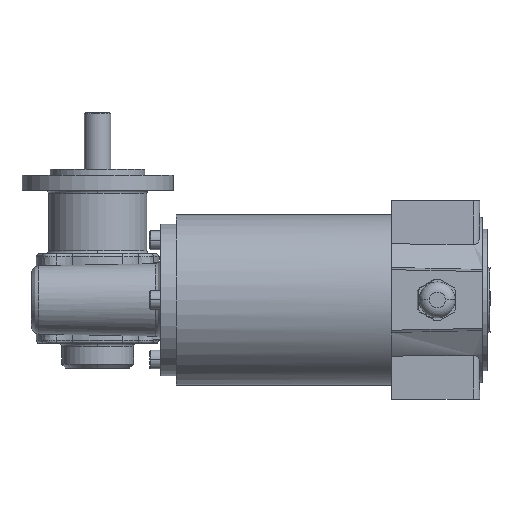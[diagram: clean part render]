
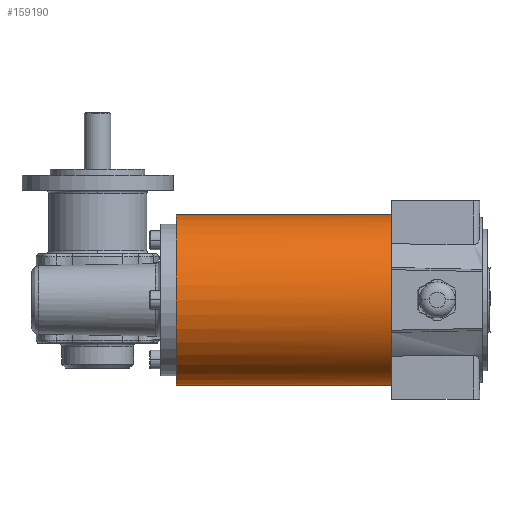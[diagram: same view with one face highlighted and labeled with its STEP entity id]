
A CAD part, front view. The second image highlights one B-rep face of the part: STEP entity #159190.
In plain terms, the highlighted cylindrical face has radius 45 mm (diameter 90 mm), a partial arc.
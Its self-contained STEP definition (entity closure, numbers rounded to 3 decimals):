
#21200=CARTESIAN_POINT('',(-64.,458.874,
-134.584));
#21210=DIRECTION('',(0.,1.,
-0.026));
#21220=DIRECTION('',(1.,0.,0.));
#21230=AXIS2_PLACEMENT_3D('',#21200,#21210,#21220);
#21240=CIRCLE('',#21230,45.);
#21250=CARTESIAN_POINT('',(-19.,458.874,
-134.584));
#21260=VERTEX_POINT('',#21250);
#21270=CARTESIAN_POINT('',(-109.,458.874,
-134.584));
#21280=VERTEX_POINT('',#21270);
#21290=EDGE_CURVE('',#21260,#21280,#21240,.T.);
#21360=CARTESIAN_POINT('',(-64.,458.874,
-134.584));
#21370=DIRECTION('',(0.,1.,
-0.026));
#21380=DIRECTION('',(1.,0.,0.));
#21390=AXIS2_PLACEMENT_3D('',#21360,#21370,#21380);
#21400=CYLINDRICAL_SURFACE('',#21390,45.);
#21410=CARTESIAN_POINT('',(-109.,458.874,
-134.584));
#21420=DIRECTION('',(0.,1.,
-0.026));
#21430=VECTOR('',#21420,1.);
#21440=LINE('',#21410,#21430);
#21450=CARTESIAN_POINT('',(-109.,572.835,
-137.568));
#21460=VERTEX_POINT('',#21450);
#21470=EDGE_CURVE('',#21280,#21460,#21440,.T.);
#21490=CARTESIAN_POINT('',(-64.,572.835,
-137.568));
#21500=DIRECTION('',(0.,1.,
-0.026));
#21510=DIRECTION('',(1.,0.,0.));
#21520=AXIS2_PLACEMENT_3D('',#21490,#21500,#21510);
#21530=CIRCLE('',#21520,45.);
#21540=CARTESIAN_POINT('',(-19.,572.835,
-137.568));
#21550=VERTEX_POINT('',#21540);
#21580=CARTESIAN_POINT('',(-19.,458.874,
-134.584));
#21590=DIRECTION('',(0.,1.,
-0.026));
#21600=VECTOR('',#21590,1.);
#21610=LINE('',#21580,#21600);
#21620=EDGE_CURVE('',#21260,#21550,#21610,.T.);
#21730=EDGE_CURVE('',#21550,#21460,#21530,.T.);
#159130=ORIENTED_EDGE('',*,*,#21730,.F.);
#159140=ORIENTED_EDGE('',*,*,#21470,.T.);
#159150=ORIENTED_EDGE('',*,*,#21290,.T.);
#159160=ORIENTED_EDGE('',*,*,#21620,.F.);
#159170=EDGE_LOOP('',(#159160,#159150,#159140,#159130));
#159180=FACE_OUTER_BOUND('',#159170,.T.);
#159190=ADVANCED_FACE('',(#159180),#21400,.T.);
